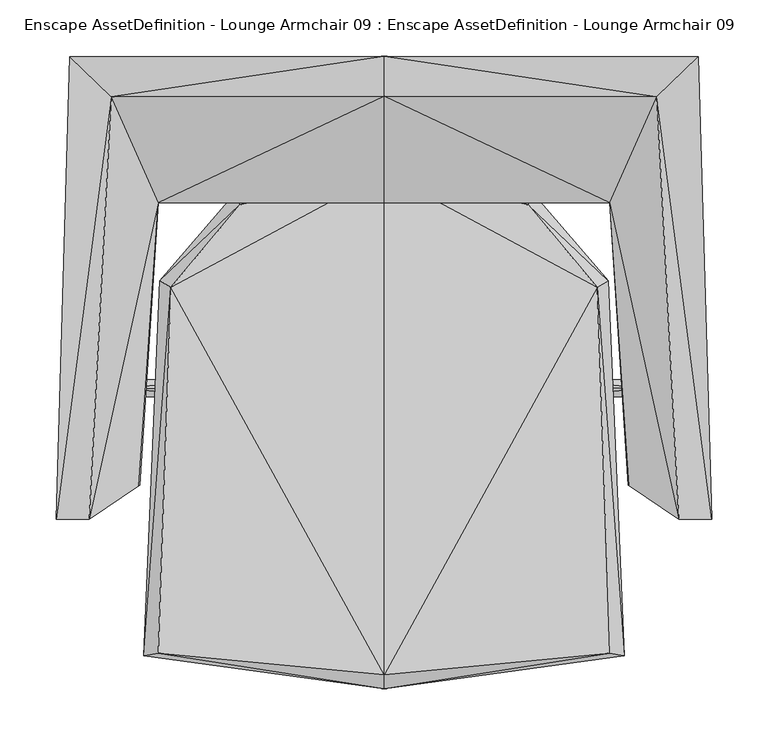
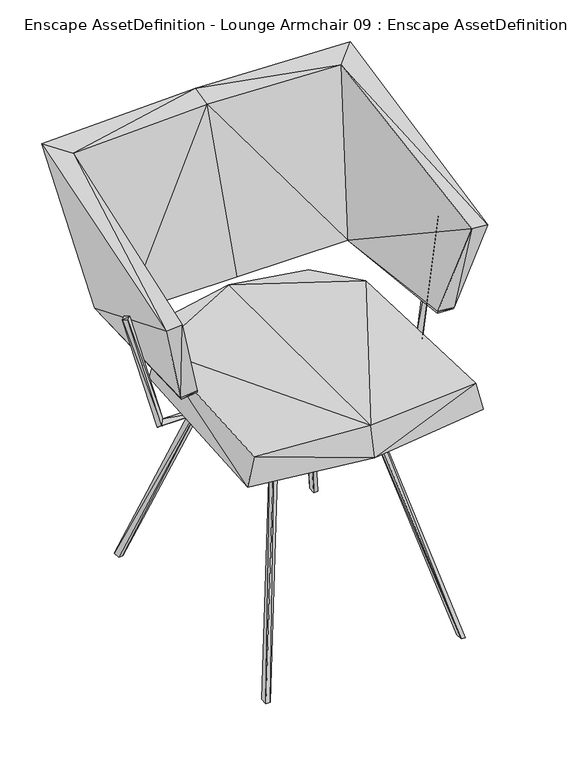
"""IFC4 building model written with IfcOpenShell, lengths in millimetres: geographic element geometry, Enscape AssetDefinition - Lounge Armchair 09 : Enscape AssetDefinition - Lounge Armchair 09."""

from ifc_helpers import new_model, si_unit, origin, place, context, project, spatial, faceted_brep, source, transform, mapped, element, save


def enscape_assetdefinition_lounge_armchair_09_enscape_0de7779d(model_context):
    return source(origin(), model_context, "Body", "Brep", [
        faceted_brep([(0.0, 191.7659938, 479.072988), (128.410995, 163.0650014, 480.3420007), (0.0, 198.9230067, 425.8030057), (189.6599978, 89.9270028, 482.3929965), (133.3909929, 172.7000028, 426.7539978), (199.4599998, 95.7430005, 428.5239875), (-189.6599978, 89.9270028, 482.3929965), (-128.410995, 163.0650014, 480.3420007), (0.0, -254.8930049, 480.2840054), (201.0419965, -235.8320057, 479.283005), (213.6310041, -237.9979938, 425.989002), (0.0, -267.3630118, 425.8820117), (-201.0419965, -235.8320057, 479.283005), (-213.6310041, -237.9979938, 425.989002), (-199.4599998, 95.7430005, 428.5239875), (-133.3909929, 172.7000028, 426.7539978)], [[[0, 1, 2]], [[1, 0, 3]], [[4, 1, 5]], [[2, 1, 4]], [[5, 1, 3]], [[6, 0, 7]], [[3, 0, 8]], [[2, 7, 0]], [[6, 8, 0]], [[9, 10, 3]], [[3, 8, 9]], [[3, 10, 5]], [[11, 9, 8]], [[12, 11, 8]], [[6, 12, 8]], [[12, 6, 13]], [[13, 6, 14]], [[7, 14, 6]], [[13, 11, 12]], [[14, 11, 13]], [[10, 9, 11]], [[11, 14, 2]], [[11, 5, 10]], [[5, 11, 2]], [[15, 14, 7]], [[2, 14, 15]], [[5, 2, 4]], [[15, 7, 2]]]),
        faceted_brep([(291.700989, -116.4589971, 679.1200042), (247.8179932, -86.8439972, 518.4469819), (237.5140041, 201.8090039, 510.9639764), (262.2379959, -116.7860031, 681.7550063), (218.2630002, -86.9129971, 520.8669901), (246.8270063, -86.1800015, 514.8519874), (279.561013, 295.0069904, 784.3289971), (242.6690012, 259.3060136, 775.0319839), (200.6669939, 164.823994, 510.9639764), (217.2710001, -86.2419978, 517.2730088), (0.0, 164.8609936, 510.9620094), (0.0, 259.6809864, 783.9090228), (0.0, 201.7479986, 510.9620094), (0.0, 295.3810096, 793.2059765), (-242.6690012, 259.3060136, 775.0319839), (-237.5140041, 201.8090039, 510.9639764), (-279.561013, 295.0069904, 784.3289971), (-200.6669939, 164.823994, 510.9639764), (-247.8179932, -86.8439972, 518.4469819), (-291.700989, -116.4589971, 679.1200042), (-246.8270063, -86.1800015, 514.8519874), (-262.2379959, -116.7860031, 681.7550063), (-217.2710001, -86.2419978, 517.2730088), (-218.2630002, -86.9129971, 520.8669901)], [[[0, 1, 2]], [[3, 4, 1]], [[1, 5, 2]], [[4, 5, 1]], [[3, 1, 0]], [[6, 7, 0]], [[0, 2, 6]], [[0, 7, 3]], [[3, 8, 4]], [[8, 3, 7]], [[5, 4, 9]], [[4, 8, 9]], [[2, 5, 8]], [[8, 5, 9]], [[10, 8, 11]], [[2, 8, 12]], [[11, 8, 7]], [[12, 8, 10]], [[6, 13, 7]], [[7, 13, 11]], [[2, 13, 6]], [[12, 13, 2]], [[11, 13, 14]], [[12, 15, 13]], [[14, 13, 16]], [[13, 15, 16]], [[10, 11, 17]], [[17, 11, 14]], [[17, 12, 10]], [[15, 12, 17]], [[18, 19, 15]], [[19, 16, 15]], [[18, 15, 20]], [[17, 20, 15]], [[16, 19, 14]], [[14, 19, 21]], [[21, 17, 14]], [[22, 20, 17]], [[17, 23, 22]], [[17, 21, 23]], [[23, 18, 20]], [[23, 20, 22]], [[18, 23, 21]], [[18, 21, 19]]]),
        faceted_brep([(83.0499977, -95.9369987, 408.4480107), (180.8809936, -237.974003, 0.0), (85.6380016, -86.277999, 395.6409991), (180.8830053, -224.6980071, 0.0), (173.217997, -224.7000039, 0.0), (173.2150018, -237.9750013, 0.0), (83.0499977, 95.9369987, 408.4480107), (85.6380016, 86.277999, 395.6409991), (75.496003, -95.931001, 407.0590138), (78.1520009, -86.668998, 393.9769864), (78.1520009, 86.668998, 393.9769864), (173.217997, 224.7000039, 0.0), (173.2150018, 237.9750013, 0.0), (75.496003, 95.931001, 407.0590138), (180.8809936, 237.974003, 0.0), (180.8830053, 224.6980071, 0.0)], [[[0, 1, 2]], [[3, 1, 4]], [[2, 1, 3]], [[0, 5, 1]], [[4, 1, 5]], [[6, 0, 7]], [[8, 5, 0]], [[0, 6, 8]], [[7, 0, 2]], [[8, 9, 5]], [[5, 9, 4]], [[9, 2, 4]], [[4, 2, 3]], [[9, 8, 10]], [[9, 10, 2]], [[2, 10, 7]], [[11, 10, 12]], [[10, 8, 13]], [[12, 10, 13]], [[11, 7, 10]], [[8, 6, 13]], [[13, 6, 12]], [[6, 7, 14]], [[12, 6, 14]], [[12, 14, 11]], [[15, 7, 11]], [[11, 14, 15]], [[14, 7, 15]]]),
        faceted_brep([(-75.496003, -95.931001, 407.0590138), (-75.496003, 95.931001, 407.0590138), (-83.0499977, -95.9369987, 408.4480107), (-78.1520009, 86.668998, 393.9769864), (-173.2150018, 237.9750013, 0.0), (-83.0499977, 95.9369987, 408.4480107), (-78.1520009, -86.668998, 393.9769864), (-173.2150018, -237.9750013, 0.0), (-85.6380016, 86.277999, 395.6409991), (-173.217997, 224.7000039, 0.0), (-180.8809936, 237.974003, 0.0), (-85.6380016, -86.277999, 395.6409991), (-180.8830053, 224.6980071, 0.0), (-173.217997, -224.7000039, 0.0), (-180.8809936, -237.974003, 0.0), (-180.8830053, -224.6980071, 0.0)], [[[0, 1, 2]], [[1, 3, 4]], [[1, 4, 5]], [[2, 1, 5]], [[0, 3, 1]], [[6, 3, 0]], [[0, 2, 7]], [[7, 6, 0]], [[3, 8, 9]], [[6, 8, 3]], [[4, 3, 9]], [[5, 4, 10]], [[9, 10, 4]], [[5, 8, 2]], [[5, 10, 8]], [[11, 8, 6]], [[2, 8, 11]], [[8, 10, 12]], [[9, 8, 12]], [[13, 6, 7]], [[13, 11, 6]], [[7, 14, 13]], [[7, 2, 14]], [[15, 11, 13]], [[13, 14, 15]], [[2, 11, 14]], [[14, 11, 15]], [[12, 10, 9]]]),
        faceted_brep([(165.0249958, 82.1219981, 412.3719931), (-165.0249958, 82.1219981, 412.3719931), (157.0769995, 74.153997, 419.2999899), (-157.0769995, 74.153997, 405.4439962), (-157.0769995, -74.153997, 405.4439962), (-165.0249958, -82.1219981, 412.3719931), (-157.0769995, -74.153997, 419.2999899), (-157.0769995, 74.153997, 419.2999899), (-149.120003, 66.1839992, 412.3719931), (-149.120003, -66.1839992, 412.3719931), (157.0769995, 74.153997, 405.4439962), (157.0769995, -74.153997, 405.4439962), (149.120003, -66.1839992, 412.3719931), (149.120003, 66.1839992, 412.3719931), (165.0249958, -82.1219981, 412.3719931), (157.0769995, -74.153997, 419.2999899)], [[[0, 1, 2]], [[3, 4, 1]], [[5, 6, 1]], [[2, 1, 7]], [[0, 3, 1]], [[1, 4, 5]], [[1, 6, 7]], [[8, 9, 3]], [[10, 3, 0]], [[3, 9, 4]], [[10, 8, 3]], [[4, 9, 11]], [[9, 6, 12]], [[11, 9, 12]], [[8, 6, 9]], [[13, 8, 10]], [[7, 6, 8]], [[13, 7, 8]], [[2, 7, 13]], [[13, 12, 2]], [[10, 11, 13]], [[13, 11, 12]], [[0, 11, 10]], [[14, 11, 0]], [[14, 4, 11]], [[2, 15, 0]], [[0, 15, 14]], [[2, 12, 15]], [[12, 6, 15]], [[6, 5, 15]], [[15, 5, 14]], [[5, 4, 14]]]),
        faceted_brep([(157.0769995, -7.4669998, 412.3719931), (157.0769995, 0.0, 405.9059918), (236.2470031, -7.464, 412.3930037), (157.0769995, 7.4669998, 412.3719931), (234.593004, 7.464, 412.3519957), (157.0769995, 0.0, 418.8379943), (240.5479997, 0.005, 405.9390128), (230.2930057, -0.004, 418.8089967), (279.6039879, 35.3810005, 612.4569774), (286.8619859, 28.7180003, 611.7540002), (281.6179991, 20.6700005, 614.0559912), (274.3600011, 27.3330007, 614.759028)], [[[0, 1, 2]], [[3, 4, 1]], [[0, 5, 1]], [[2, 1, 6]], [[1, 4, 6]], [[1, 5, 3]], [[5, 0, 7]], [[7, 0, 2]], [[5, 7, 3]], [[3, 7, 4]], [[4, 7, 8]], [[6, 4, 9]], [[9, 4, 8]], [[6, 9, 2]], [[10, 9, 11]], [[11, 9, 8]], [[2, 9, 10]], [[8, 7, 11]], [[2, 10, 7]], [[7, 10, 11]]]),
        faceted_brep([(-240.5479997, 0.005, 405.9390128), (-157.0769995, 0.0, 405.9059918), (-236.2470031, -7.464, 412.3930037), (-157.0769995, 7.4669998, 412.3719931), (-234.593004, 7.464, 412.3519957), (-157.0769995, -7.4669998, 412.3719931), (-157.0769995, 0.0, 418.8379943), (-286.8619859, 28.7180003, 611.7540002), (-279.6039879, 35.3810005, 612.4569774), (-230.2930057, -0.004, 418.8089967), (-274.3600011, 27.3330007, 614.759028), (-281.6179991, 20.6700005, 614.0559912)], [[[0, 1, 2]], [[3, 1, 4]], [[5, 1, 6]], [[2, 1, 5]], [[4, 1, 0]], [[6, 1, 3]], [[0, 2, 7]], [[7, 4, 0]], [[8, 4, 7]], [[9, 3, 4]], [[8, 9, 4]], [[6, 3, 9]], [[9, 5, 6]], [[2, 5, 9]], [[10, 9, 8]], [[2, 9, 11]], [[11, 9, 10]], [[7, 10, 8]], [[11, 10, 7]], [[7, 2, 11]]]),
    ])


if __name__ == "__main__":
    model = new_model("IFC4")
    model_context = context("Model", 3, world=origin())
    ifc_project = project(units=[si_unit("LENGTHUNIT", "METRE", prefix="MILLI")], contexts=[model_context])
    site = spatial("IfcSite", under=ifc_project)
    building = spatial("IfcBuilding", under=site)
    placement = place(None, origin())
    enscape_assetdefinition_lounge_armchair_09_enscape_shape = enscape_assetdefinition_lounge_armchair_09_enscape_0de7779d(model_context)
    element("IfcGeographicElement", 1, ObjectType="Enscape AssetDefinition - Lounge Armchair 09 : Enscape AssetDefinition - Lounge Armchair 09", at=placement, inside=building, context=model_context, shape_type="MappedRepresentation", body=[
        mapped(enscape_assetdefinition_lounge_armchair_09_enscape_shape, transform((0.0, 0.0, 0.0), x_axis=(1.0, 0.0, 0.0), y_axis=(0.0, 1.0, 0.0), z_axis=(0.0, 0.0, 1.0))),
    ])
    save(model, "model.ifc")
